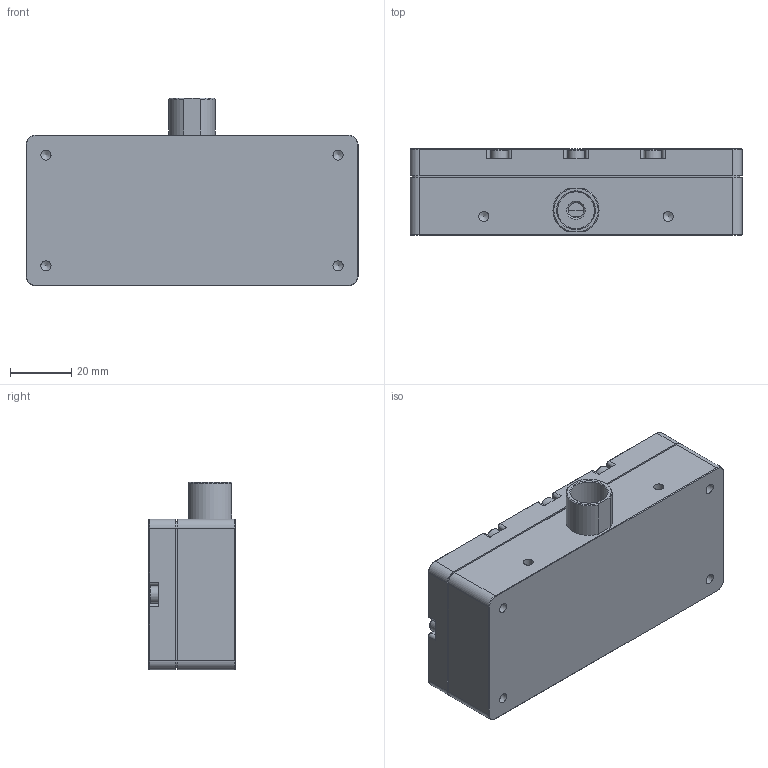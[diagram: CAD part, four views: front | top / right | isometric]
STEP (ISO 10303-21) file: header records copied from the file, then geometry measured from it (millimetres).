
FILE_DESCRIPTION (( 'STEP AP203' ), '1' );
FILE_NAME ('陔邧醴眈儂.STEP', '2025-03-11T01:41:11', ( '' ), ( '' ), 'SwSTEP 2.0', 'SolidWorks 2021', '' );
FILE_SCHEMA (( 'CONFIG_CONTROL_DESIGN' ));
Length unit declared in the file: millimetre
Products named in the file (1): 陔邧醴眈儂
Bounding box: 108 x 28 x 61 mm (x, y, z)
Volume: 102158.3 mm3; surface area: 53762.5 mm2
Topology: 33 solids, 33 shells, 873 faces, 1990 edges, 1223 vertices
Faces by surface type: plane 404, cylinder 286, cone 131, torus 50, bspline 2
Full cylindrical faces by diameter (mm): 1.5 x5, 1.6 x4, 2.05 x6, 2.1 x4, 2.21 x6, 2.224 x4, 2.5 x22, 2.6 x6, 3 x12, 3.2 x12, 3.3 x8, 4.7 x6, 5 x9, 5.5 x12, 6 x4, 6.8 x1, 7 x1, 8 x1, 10 x1, 12 x1, 13.2 x1, 14 x2, 15 x2, 17 x4, 21 x2, 21.4 x4, 32 x2, 32.1 x2
Entity records: 22851 total; most frequent: CARTESIAN_POINT 4436, DIRECTION 3988, ORIENTED_EDGE 3244, EDGE_CURVE 1622, AXIS2_PLACEMENT_3D 1576, EDGE_LOOP 1252, VERTEX_POINT 1136, FACE_OUTER_BOUND 1053
